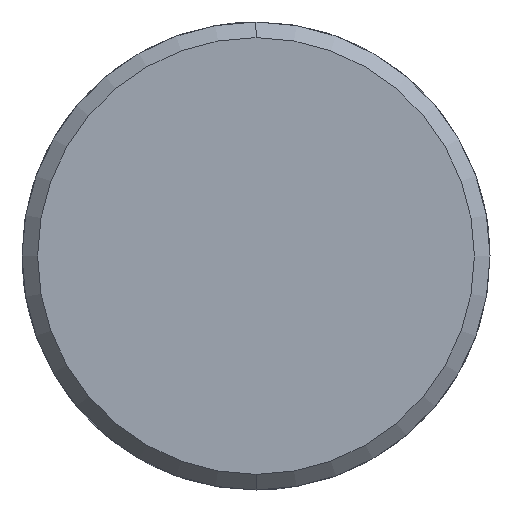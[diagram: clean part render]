
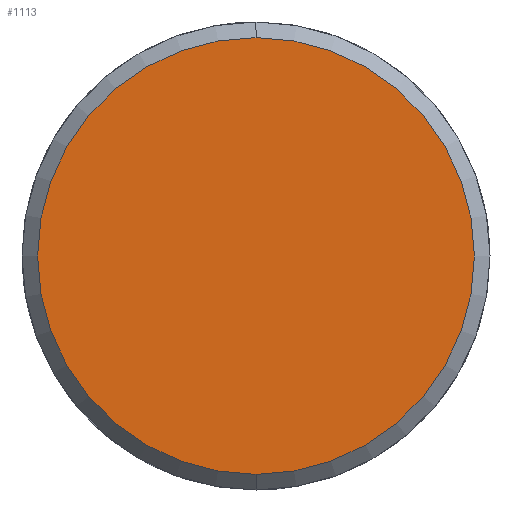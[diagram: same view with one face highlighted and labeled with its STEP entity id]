
A CAD part, left-side view. The second image highlights one B-rep face of the part: STEP entity #1113.
In plain terms, the highlighted planar face has unit normal (-1, 0, 0).
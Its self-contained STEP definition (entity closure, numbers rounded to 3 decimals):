
#1045=CARTESIAN_POINT('Vertex',(-5.,0.,-14.)) ;
#1048=CARTESIAN_POINT('Axis2P3D Location',(-5.,0.,0.)) ;
#1052=CARTESIAN_POINT('Vertex',(-5.,14.,0.)) ;
#1055=CARTESIAN_POINT('Axis2P3D Location',(-5.,0.,0.)) ;
#1059=CARTESIAN_POINT('Vertex',(-5.,0.,14.)) ;
#1081=CARTESIAN_POINT('Axis2P3D Location',(-5.,0.,0.)) ;
#1085=CARTESIAN_POINT('Vertex',(-5.,-14.,0.)) ;
#1088=CARTESIAN_POINT('Axis2P3D Location',(-5.,0.,0.)) ;
#1102=CARTESIAN_POINT('Axis2P3D Location',(-5.,0.,0.)) ;
#1049=DIRECTION('Axis2P3D Direction',(1.,0.,-0.)) ;
#1056=DIRECTION('Axis2P3D Direction',(1.,0.,-0.)) ;
#1082=DIRECTION('Axis2P3D Direction',(1.,0.,-0.)) ;
#1089=DIRECTION('Axis2P3D Direction',(1.,0.,-0.)) ;
#1103=DIRECTION('Axis2P3D Direction',(1.,0.,-0.)) ;
#1104=DIRECTION('Axis2P3D XDirection',(-0.,0.,-1.)) ;
#1050=AXIS2_PLACEMENT_3D('Circle Axis2P3D',#1048,#1049,$) ;
#1057=AXIS2_PLACEMENT_3D('Circle Axis2P3D',#1055,#1056,$) ;
#1083=AXIS2_PLACEMENT_3D('Circle Axis2P3D',#1081,#1082,$) ;
#1090=AXIS2_PLACEMENT_3D('Circle Axis2P3D',#1088,#1089,$) ;
#1105=AXIS2_PLACEMENT_3D('Plane Axis2P3D',#1102,#1103,#1104) ;
#1108=ORIENTED_EDGE('',*,*,#1054,.F.) ;
#1109=ORIENTED_EDGE('',*,*,#1092,.F.) ;
#1110=ORIENTED_EDGE('',*,*,#1087,.F.) ;
#1111=ORIENTED_EDGE('',*,*,#1061,.F.) ;
#1113=ADVANCED_FACE('351-18X36X80',(#1112),#1106,.F.) ;
#1051=CIRCLE('generated circle',#1050,14.) ;
#1058=CIRCLE('generated circle',#1057,14.) ;
#1084=CIRCLE('generated circle',#1083,14.) ;
#1091=CIRCLE('generated circle',#1090,14.) ;
#1054=EDGE_CURVE('',#1046,#1053,#1051,.T.) ;
#1061=EDGE_CURVE('',#1053,#1060,#1058,.T.) ;
#1087=EDGE_CURVE('',#1060,#1086,#1084,.T.) ;
#1092=EDGE_CURVE('',#1086,#1046,#1091,.T.) ;
#1107=EDGE_LOOP('',(#1108,#1109,#1110,#1111)) ;
#1112=FACE_OUTER_BOUND('',#1107,.T.) ;
#1106=PLANE('Plane',#1105) ;
#1046=VERTEX_POINT('',#1045) ;
#1053=VERTEX_POINT('',#1052) ;
#1060=VERTEX_POINT('',#1059) ;
#1086=VERTEX_POINT('',#1085) ;
